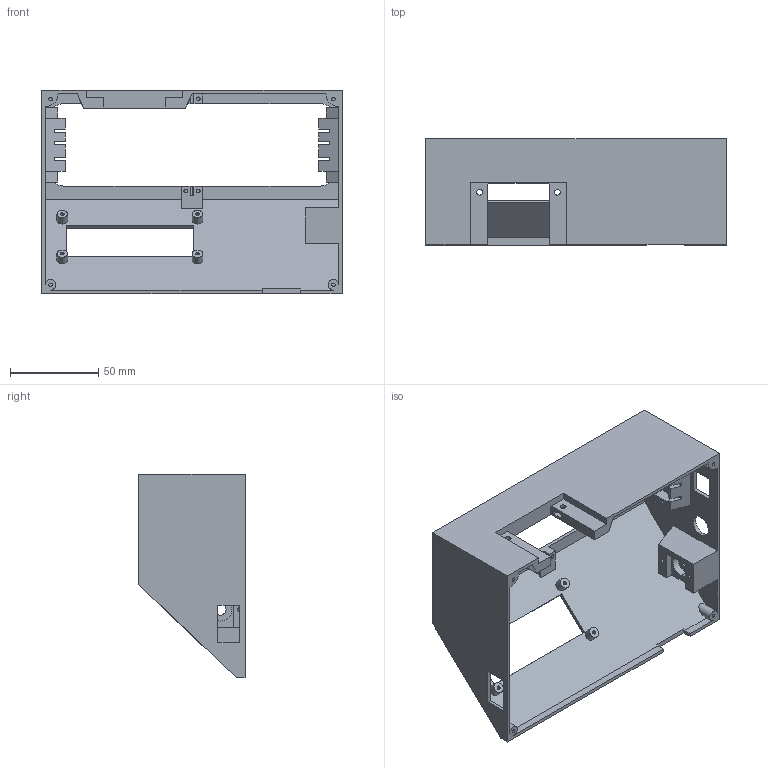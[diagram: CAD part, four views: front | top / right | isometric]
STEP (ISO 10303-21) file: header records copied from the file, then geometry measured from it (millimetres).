
FILE_DESCRIPTION (( 'STEP AP203' ), '1' );
FILE_NAME ('CASE.STEP', '2021-09-09T14:15:32', ( '' ), ( '' ), 'SwSTEP 2.0', 'SolidWorks 2020', '' );
FILE_SCHEMA (( 'CONFIG_CONTROL_DESIGN' ));
Length unit declared in the file: millimetre
Products named in the file (1): CASE
Bounding box: 170 x 60 x 115 mm (x, y, z)
Volume: 91730 mm3; surface area: 77056.9 mm2
Topology: 1 solids, 1 shells, 238 faces, 619 edges, 410 vertices
Faces by surface type: plane 167, cylinder 69, cone 2
Entity records: 7364 total; most frequent: CARTESIAN_POINT 1290, ORIENTED_EDGE 1234, DIRECTION 1221, EDGE_CURVE 617, LINE 479, VECTOR 479, VERTEX_POINT 410, AXIS2_PLACEMENT_3D 371
